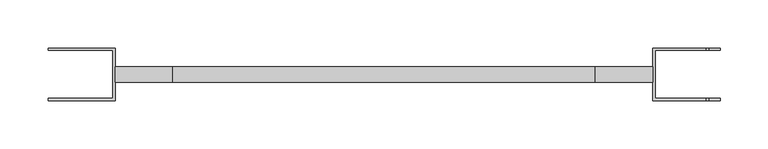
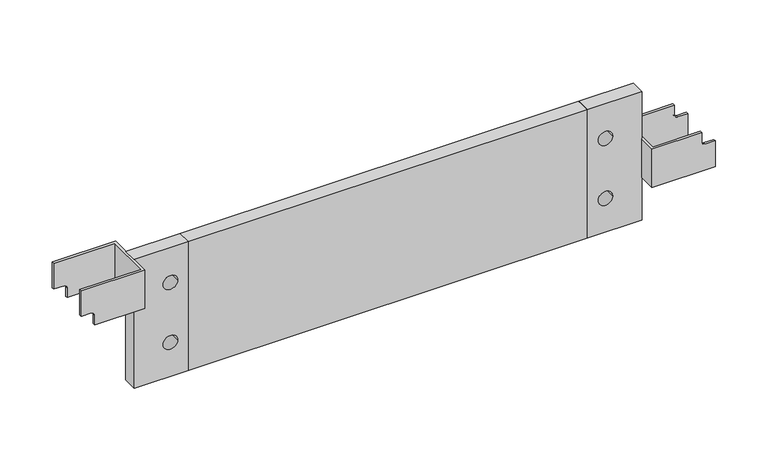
"""IFC4 building model written with IfcOpenShell, lengths in millimetres: proxy geometry, 11-Plinthe 0.70 : JPA Plinthe 0.70."""

from ifc_helpers import new_model, si_unit, point, frame, frame_2d, origin, origin_with_axes, place, context, project, spatial, polyline, circle_curve, trimmed, segment, composite_curve, outline, extrude, source, transform, mapped, element, save
from ifc_brep_helpers import plane_surface, revolved_surface, advanced_brep


def generic_models_6026e95e(model_context):
    return source(origin(), model_context, "Body", "SolidModel", [
        advanced_brep(
        [(686.9896919, -27.4723419, 50.0), (686.9896919, -27.4723419, 80.0), (675.9896919, -27.4723419, 80.0), (671.9896919, -27.4723419, 84.0), (671.9896919, -27.4723419, 95.0), (616.9896919, -27.4723419, 95.0), (616.9896919, -27.4723419, 50.0), (686.9896919, 27.5276581, 50.0), (616.9896919, 27.5276581, 50.0), (616.9896919, 27.5276581, 95.0), (671.9896919, 27.5276581, 95.0), (671.9896919, 27.5276581, 84.0), (675.9896919, 27.5276581, 80.0), (686.9896919, 27.5276581, 80.0), (686.9896919, -24.9723419, 50.0), (686.9896919, -24.9723419, 80.0), (686.9896919, 25.0276581, 80.0), (686.9896919, 25.0276581, 50.0), (675.9896919, -24.9723419, 80.0), (675.9896919, 25.0276581, 80.0), (671.9896919, -24.9723419, 84.0), (671.9896919, 25.0276581, 84.0), (671.9896919, -24.9723419, 95.0), (671.9896919, 25.0276581, 95.0), (619.4896919, -24.9723419, 95.0), (619.4896919, 25.0276581, 95.0), (619.4896919, 25.0276581, 50.0), (619.4896919, -24.9723419, 50.0)],
        [
            (0, 1),
            (1, 2),
            (2, 3, circle_curve(frame((675.9896919, -27.4723419, 84.0), z_axis=(0.0, 1.0, 0.0), x_axis=(-1.0, 0.0, 0.0)), 4.0)),
            (3, 4),
            (4, 5),
            (5, 6),
            (6, 0),
            (7, 8),
            (8, 9),
            (9, 10),
            (10, 11),
            (11, 12, circle_curve(frame((675.9896919, 27.5276581, 84.0), z_axis=(0.0, -1.0, 0.0), x_axis=(-1.0, 0.0, 0.0)), 4.0)),
            (12, 13),
            (13, 7),
            (0, 14),
            (14, 15),
            (15, 1),
            (13, 16),
            (16, 17),
            (17, 7),
            (15, 18),
            (18, 2),
            (12, 19),
            (19, 16),
            (18, 20, circle_curve(frame((675.9896919, -24.9723419, 84.0), z_axis=(0.0, 1.0, 0.0), x_axis=(-1.0, 0.0, 0.0)), 4.0)),
            (20, 3),
            (11, 21),
            (21, 19, circle_curve(frame((675.9896919, 25.0276581, 84.0), z_axis=(0.0, -1.0, 0.0), x_axis=(-1.0, 0.0, 0.0)), 4.0)),
            (20, 22),
            (22, 4),
            (10, 23),
            (23, 21),
            (22, 24),
            (24, 25),
            (25, 23),
            (9, 5),
            (8, 6),
            (17, 26),
            (26, 27),
            (27, 14),
            (27, 24),
            (25, 26),
        ],
        [
            plane_surface(frame((686.9896919, -27.4723419, 50.0), z_axis=(0.0, -1.0, 0.0), x_axis=(0.0, 0.0, 1.0))),
            plane_surface(frame((686.9896919, 27.5276581, 50.0), z_axis=(0.0, 1.0, 0.0), x_axis=(0.0, 0.0, -1.0))),
            plane_surface(frame((686.9896919, -27.4723419, 50.0), z_axis=(1.0, 0.0, 0.0), x_axis=(0.0, 1.0, 0.0))),
            plane_surface(frame((686.9896919, -27.4723419, 80.0), z_axis=(0.0, 0.0, 1.0), x_axis=(0.0, 1.0, 0.0))),
            revolved_surface(polyline([(671.9896919, -24.9723419, 84.0), (671.9896919, -27.4723419, 84.0)]), (675.9896919, 27.5276581, 84.0), (0.0, 1.0, 0.0)),
            revolved_surface(polyline([(671.9896919, 27.5276581, 84.0), (671.9896919, 25.0276581, 84.0)]), (675.9896919, 27.5276581, 84.0), (0.0, 1.0, 0.0)),
            plane_surface(frame((671.9896919, -27.4723419, 84.0), z_axis=(1.0, 0.0, 0.0), x_axis=(0.0, 1.0, 0.0))),
            plane_surface(frame((671.9896919, -27.4723419, 95.0), z_axis=(0.0, 0.0, 1.0), x_axis=(0.0, 1.0, 0.0))),
            plane_surface(frame((616.9896919, -27.4723419, 95.0), z_axis=(-1.0, 0.0, 0.0), x_axis=(0.0, 1.0, 0.0))),
            plane_surface(frame((616.9896919, -27.4723419, 50.0), z_axis=(0.0, 0.0, -1.0), x_axis=(0.0, 1.0, 0.0))),
            plane_surface(frame((619.4896919, -24.9723419, 250.0), z_axis=(0.0, 1.0, 0.0), x_axis=(0.0, 0.0, -1.0))),
            plane_surface(frame((686.9896919, 25.0276581, 250.0), z_axis=(0.0, -1.0, 0.0), x_axis=(0.0, 0.0, -1.0))),
            plane_surface(frame((619.4896919, 25.0276581, 250.0), z_axis=(1.0, 0.0, 0.0), x_axis=(0.0, 0.0, -1.0))),
        ],
        [
            (0, [[1, 2, 3, 4, 5, 6, 7]]),
            (1, [[8, 9, 10, 11, 12, 13, 14]]),
            (2, [[-1, 15, 16, 17]]),
            (2, [[-14, 18, 19, 20]]),
            (3, [[-2, -17, 21, 22]]),
            (3, [[-13, 23, 24, -18]]),
            (4, [[-3, -22, 25, 26]]),
            (5, [[-12, 27, 28, -23]]),
            (6, [[-4, -26, 29, 30]]),
            (6, [[-11, 31, 32, -27]]),
            (7, [[-5, -30, 33, 34, 35, -31, -10, 36]]),
            (8, [[-6, -36, -9, 37]]),
            (9, [[-7, -37, -8, -20, 38, 39, 40, -15]]),
            (10, [[41, -33, -29, -25, -21, -16, -40]]),
            (11, [[42, -38, -19, -24, -28, -32, -35]]),
            (12, [[-41, -39, -42, -34]]),
        ],
    ),
        extrude(outline(polyline([(0.0, 556.9896919), (0.0, 616.9896919), (150.0, 616.9896919), (150.0, 556.9896919), (0.0, 556.9896919)]), holes=[composite_curve([segment(trimmed(circle_curve(frame_2d((109.5264716, 577.1192368)), 8.0), [point((109.5264716, 585.1192368))], [point((109.5264716, 569.1192368))], True, "CARTESIAN"), True, "CONTINUOUS"), segment(trimmed(circle_curve(frame_2d((109.5264716, 577.1192368)), 8.0), [point((109.5264716, 569.1192368))], [point((109.5264716, 585.1192368))], True, "CARTESIAN"), True, "CONTINUOUS")], self_intersect=False), composite_curve([segment(trimmed(circle_curve(frame_2d((39.5264716, 577.1192368)), 8.0), [point((39.5264716, 585.1192368))], [point((39.5264716, 569.1192368))], True, "CARTESIAN"), True, "CONTINUOUS"), segment(trimmed(circle_curve(frame_2d((39.5264716, 577.1192368)), 8.0), [point((39.5264716, 569.1192368))], [point((39.5264716, 585.1192368))], True, "CARTESIAN"), True, "CONTINUOUS")], self_intersect=False)]), frame((0.0, -7.9723419, 0.0), z_axis=(0.0, 1.0, 0.0), x_axis=(0.0, 0.0, 1.0)), (0.0, 0.0, 1.0), 16.0),
        extrude(outline(polyline([(556.9896919, -7.9723419), (116.9896919, -7.9723419), (116.9896919, 8.0276581), (556.9896919, 8.0276581), (556.9896919, -7.9723419)])), origin_with_axes(), (0.0, 0.0, 1.0), 150.0),
        extrude(outline(polyline([(0.0, 116.9896919), (150.0, 116.9896919), (150.0, 56.9896919), (0.0, 56.9896919), (0.0, 116.9896919)]), holes=[composite_curve([segment(trimmed(circle_curve(frame_2d((109.5264716, 96.860147)), 8.0), [point((109.5264716, 88.860147))], [point((109.5264716, 104.860147))], True, "CARTESIAN"), True, "CONTINUOUS"), segment(trimmed(circle_curve(frame_2d((109.5264716, 96.860147)), 8.0), [point((109.5264716, 104.860147))], [point((109.5264716, 88.860147))], True, "CARTESIAN"), True, "CONTINUOUS")], self_intersect=False), composite_curve([segment(trimmed(circle_curve(frame_2d((39.5264716, 96.860147)), 8.0), [point((39.5264716, 88.860147))], [point((39.5264716, 104.860147))], True, "CARTESIAN"), True, "CONTINUOUS"), segment(trimmed(circle_curve(frame_2d((39.5264716, 96.860147)), 8.0), [point((39.5264716, 104.860147))], [point((39.5264716, 88.860147))], True, "CARTESIAN"), True, "CONTINUOUS")], self_intersect=False)]), frame((0.0, -7.9723419, 0.0), z_axis=(0.0, 1.0, 0.0), x_axis=(0.0, 0.0, 1.0)), (0.0, 0.0, 1.0), 16.0),
        advanced_brep(
        [(-13.0103081, -27.4723419, 150.0), (-13.0103081, -27.4723419, 120.0), (-2.0103081, -27.4723419, 120.0), (1.9896919, -27.4723419, 116.0), (1.9896919, -27.4723419, 105.0), (56.9896919, -27.4723419, 105.0), (56.9896919, -27.4723419, 150.0), (-13.0103081, 27.5276581, 150.0), (56.9896919, 27.5276581, 150.0), (56.9896919, 27.5276581, 105.0), (1.9896919, 27.5276581, 105.0), (1.9896919, 27.5276581, 116.0), (-2.0103081, 27.5276581, 120.0), (-13.0103081, 27.5276581, 120.0), (-13.0103081, -24.9723419, 150.0), (-13.0103081, -24.9723419, 120.0), (-13.0103081, 25.0276581, 120.0), (-13.0103081, 25.0276581, 150.0), (-2.0103081, -24.9723419, 120.0), (-2.0103081, 25.0276581, 120.0), (1.9896919, -24.9723419, 116.0), (1.9896919, 25.0276581, 116.0), (1.9896919, -24.9723419, 105.0), (1.9896919, 25.0276581, 105.0), (54.4896919, -24.9723419, 105.0), (54.4896919, 25.0276581, 105.0), (54.4896919, 25.0276581, 150.0), (54.4896919, -24.9723419, 150.0)],
        [
            (0, 1),
            (1, 2),
            (2, 3, circle_curve(frame((-2.0103081, -27.4723419, 116.0), z_axis=(0.0, 1.0, 0.0), x_axis=(1.0, 0.0, 0.0)), 4.0)),
            (3, 4),
            (4, 5),
            (5, 6),
            (6, 0),
            (7, 8),
            (8, 9),
            (9, 10),
            (10, 11),
            (11, 12, circle_curve(frame((-2.0103081, 27.5276581, 116.0), z_axis=(0.0, -1.0, 0.0), x_axis=(1.0, 0.0, 0.0)), 4.0)),
            (12, 13),
            (13, 7),
            (0, 14),
            (14, 15),
            (15, 1),
            (13, 16),
            (16, 17),
            (17, 7),
            (15, 18),
            (18, 2),
            (12, 19),
            (19, 16),
            (18, 20, circle_curve(frame((-2.0103081, -24.9723419, 116.0), z_axis=(0.0, 1.0, 0.0), x_axis=(1.0, 0.0, 0.0)), 4.0)),
            (20, 3),
            (11, 21),
            (21, 19, circle_curve(frame((-2.0103081, 25.0276581, 116.0), z_axis=(0.0, -1.0, 0.0), x_axis=(1.0, 0.0, 0.0)), 4.0)),
            (20, 22),
            (22, 4),
            (10, 23),
            (23, 21),
            (22, 24),
            (24, 25),
            (25, 23),
            (9, 5),
            (8, 6),
            (17, 26),
            (26, 27),
            (27, 14),
            (25, 26),
            (27, 24),
        ],
        [
            plane_surface(frame((-13.0103081, -27.4723419, 150.0), z_axis=(0.0, -1.0, 0.0), x_axis=(0.0, 0.0, -1.0))),
            plane_surface(frame((-13.0103081, 27.5276581, 150.0), z_axis=(0.0, 1.0, 0.0), x_axis=(0.0, 0.0, 1.0))),
            plane_surface(frame((-13.0103081, -27.4723419, 150.0), z_axis=(-1.0, 0.0, 0.0), x_axis=(0.0, 1.0, 0.0))),
            plane_surface(frame((-13.0103081, -27.4723419, 120.0), z_axis=(0.0, 0.0, -1.0), x_axis=(0.0, 1.0, 0.0))),
            revolved_surface(polyline([(1.9896919, -24.9723419, 116.0), (1.9896919, -27.4723419, 116.0)]), (-2.0103081, 27.5276581, 116.0), (0.0, 1.0, 0.0)),
            revolved_surface(polyline([(1.9896919, 27.5276581, 116.0), (1.9896919, 25.0276581, 116.0)]), (-2.0103081, 27.5276581, 116.0), (0.0, 1.0, 0.0)),
            plane_surface(frame((1.9896919, -27.4723419, 116.0), z_axis=(-1.0, 0.0, 0.0), x_axis=(0.0, 1.0, 0.0))),
            plane_surface(frame((1.9896919, -27.4723419, 105.0), z_axis=(0.0, 0.0, -1.0), x_axis=(0.0, 1.0, 0.0))),
            plane_surface(frame((56.9896919, -27.4723419, 105.0), z_axis=(1.0, 0.0, 0.0), x_axis=(0.0, 1.0, 0.0))),
            plane_surface(frame((56.9896919, -27.4723419, 150.0), z_axis=(0.0, 0.0, 1.0), x_axis=(0.0, 1.0, 0.0))),
            plane_surface(frame((54.4896919, 25.0276581, 162.2284167), z_axis=(0.0, -1.0, 0.0), x_axis=(0.0, 0.0, -1.0))),
            plane_surface(frame((-13.0103081, -24.9723419, 162.2284167), z_axis=(0.0, 1.0, 0.0), x_axis=(0.0, 0.0, -1.0))),
            plane_surface(frame((54.4896919, -24.9723419, 162.2284167), z_axis=(-1.0, 0.0, 0.0), x_axis=(0.0, 0.0, -1.0))),
        ],
        [
            (0, [[1, 2, 3, 4, 5, 6, 7]]),
            (1, [[8, 9, 10, 11, 12, 13, 14]]),
            (2, [[-1, 15, 16, 17]]),
            (2, [[-14, 18, 19, 20]]),
            (3, [[-2, -17, 21, 22]]),
            (3, [[-13, 23, 24, -18]]),
            (4, [[-3, -22, 25, 26]]),
            (5, [[-12, 27, 28, -23]]),
            (6, [[-4, -26, 29, 30]]),
            (6, [[-11, 31, 32, -27]]),
            (7, [[-5, -30, 33, 34, 35, -31, -10, 36]]),
            (8, [[-6, -36, -9, 37]]),
            (9, [[-7, -37, -8, -20, 38, 39, 40, -15]]),
            (10, [[41, -38, -19, -24, -28, -32, -35]]),
            (11, [[42, -33, -29, -25, -21, -16, -40]]),
            (12, [[-41, -34, -42, -39]]),
        ],
    ),
    ])


if __name__ == "__main__":
    model = new_model("IFC4")
    model_context = context("Model", 3, world=origin())
    ifc_project = project(units=[si_unit("LENGTHUNIT", "METRE", prefix="MILLI")], contexts=[model_context])
    site = spatial("IfcSite", under=ifc_project)
    building = spatial("IfcBuilding", under=site)
    placement = place(None, origin())
    generic_models_shape = generic_models_6026e95e(model_context)
    element("IfcBuildingElementProxy", 1, Name="11-Plinthe 0.70 : JPA Plinthe 0.70", ObjectType="11-Plinthe 0.70 : JPA Plinthe 0.70", at=placement, inside=building, context=model_context, shape_type="MappedRepresentation", body=[
        mapped(generic_models_shape, transform((0.0, 0.0, 0.0), x_axis=(1.0, 0.0, 0.0), y_axis=(0.0, 1.0, 0.0), z_axis=(0.0, 0.0, 1.0))),
    ])
    save(model, "model.ifc")
